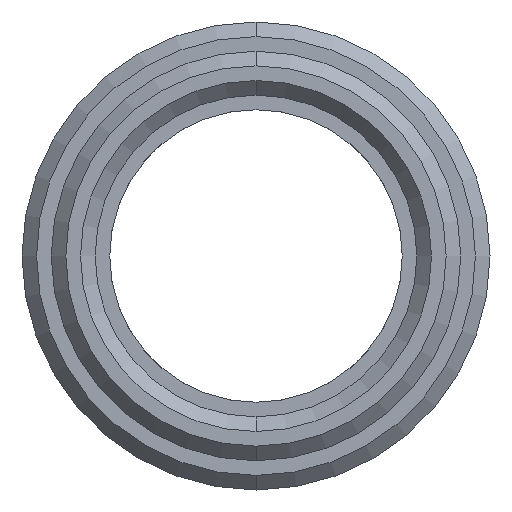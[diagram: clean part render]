
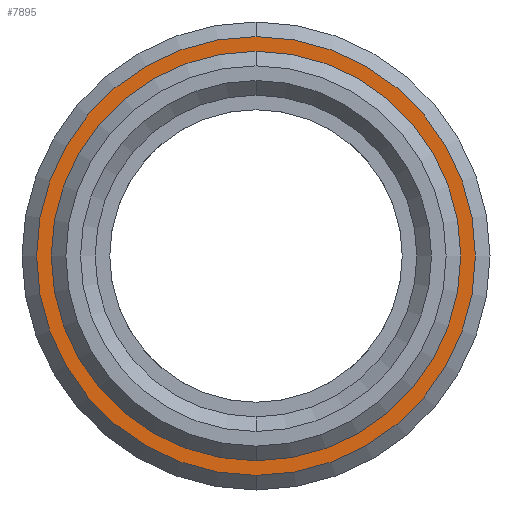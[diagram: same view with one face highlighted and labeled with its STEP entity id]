
A CAD part, left-side view. The second image highlights one B-rep face of the part: STEP entity #7895.
In plain terms, the highlighted planar face has unit normal (-1, 0, 0).
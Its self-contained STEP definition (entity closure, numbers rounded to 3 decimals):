
#2997=CARTESIAN_POINT('',(0.,0.,0.));
#2998=DIRECTION('',(1.,0.,0.));
#2999=DIRECTION('',(0.,0.,1.));
#3000=AXIS2_PLACEMENT_3D('',#2997,#2998,#2999);
#3002=CARTESIAN_POINT('',(0.,0.,0.));
#3003=DIRECTION('',(-1.,0.,0.));
#3004=DIRECTION('',(0.,0.,1.));
#3005=AXIS2_PLACEMENT_3D('',#3002,#3003,#3004);
#3007=CARTESIAN_POINT('',(0.,0.,0.));
#3008=DIRECTION('',(1.,0.,0.));
#3009=DIRECTION('',(0.,0.,1.));
#3010=AXIS2_PLACEMENT_3D('',#3007,#3008,#3009);
#3012=CARTESIAN_POINT('',(0.,0.,0.));
#3013=DIRECTION('',(1.,0.,0.));
#3014=DIRECTION('',(0.,0.,-1.));
#3015=AXIS2_PLACEMENT_3D('',#3012,#3013,#3014);
#6370=CARTESIAN_POINT('',(0.,0.,7.));
#6371=CARTESIAN_POINT('',(0.,0.,-7.));
#6372=VERTEX_POINT('',#6370);
#6373=VERTEX_POINT('',#6371);
#6394=CARTESIAN_POINT('',(0.,0.,7.5));
#6395=CARTESIAN_POINT('',(0.,0.,-7.5));
#6396=VERTEX_POINT('',#6394);
#6397=VERTEX_POINT('',#6395);
#7880=CARTESIAN_POINT('',(0.,0.,0.));
#7881=DIRECTION('',(1.,0.,0.));
#7882=DIRECTION('',(0.,0.,1.));
#7883=AXIS2_PLACEMENT_3D('',#7880,#7881,#7882);
#7884=PLANE('',#7883);
#7886=ORIENTED_EDGE('',*,*,#7885,.T.);
#7888=ORIENTED_EDGE('',*,*,#7887,.T.);
#7889=EDGE_LOOP('',(#7886,#7888));
#7890=FACE_OUTER_BOUND('',#7889,.F.);
#7891=ORIENTED_EDGE('',*,*,#7862,.F.);
#7892=ORIENTED_EDGE('',*,*,#7847,.T.);
#7893=EDGE_LOOP('',(#7891,#7892));
#7894=FACE_BOUND('',#7893,.F.);
#7895=ADVANCED_FACE('',(#7890,#7894),#7884,.F.);
#3001=CIRCLE('',#3000,7.);
#3006=CIRCLE('',#3005,7.);
#3011=CIRCLE('',#3010,7.5);
#3016=CIRCLE('',#3015,7.5);
#7847=EDGE_CURVE('',#6372,#6373,#3006,.T.);
#7862=EDGE_CURVE('',#6372,#6373,#3001,.T.);
#7885=EDGE_CURVE('',#6396,#6397,#3011,.T.);
#7887=EDGE_CURVE('',#6397,#6396,#3016,.T.);
